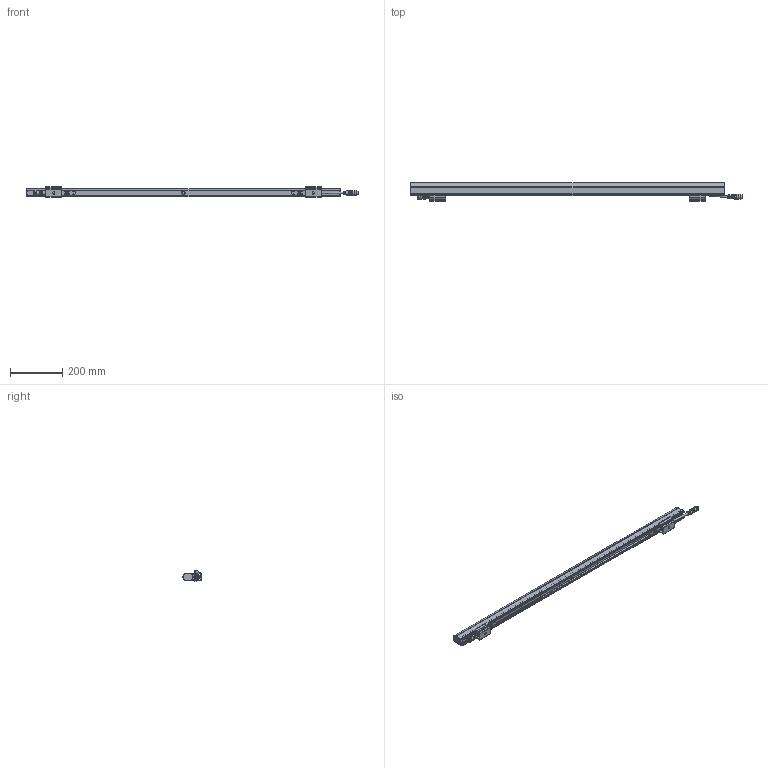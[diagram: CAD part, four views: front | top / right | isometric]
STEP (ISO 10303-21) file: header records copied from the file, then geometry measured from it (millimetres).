
FILE_DESCRIPTION (( 'STEP AP214' ), '1' );
FILE_NAME ('E series 2 Dome L1200.STEP', '2025-11-24T13:35:33', ( '' ), ( '' ), 'SwSTEP 2.0', 'SolidWorks 2025', '' );
FILE_SCHEMA (( 'AUTOMOTIVE_DESIGN' ));
Length unit declared in the file: millimetre
Products named in the file (12): E series 2 mounting clip top; E series 2 mounting clip bottom; E series 2 Dome L1200; Counter sunk screw torx_M3x16; Counter sunk screw torx_M2.5x16; Part2^E series 2; M16 5p Male; E series 2 with dome cover body and bare config_Bare 1200mm; D & E Series 2 breathing valve; M16 5p Female; E series 2 with dome cover body and bare config_1200mm; Part1^E series 2
Assembly tree (27 placements, depth 2):
  E series 2 Dome L1200
    E series 2 with dome cover body and bare config_1200mm
    E series 2 with dome cover body and bare config_Bare 1200mm
    Counter sunk screw torx_M2.5x16  x12
    E series 2 mounting clip bottom  x2
    E series 2 mounting clip top  x2
    Counter sunk screw torx_M3x16  x4
    M16 5p Female
    Part2^E series 2
    M16 5p Male
    Part1^E series 2
    D & E Series 2 breathing valve
Bounding box: 1265.7 x 68.7 x 41.7 mm (x, y, z)
Volume: 1318834.3 mm3; surface area: 288000.6 mm2
Topology: 29 solids, 32 shells, 1766 faces, 4398 edges, 2781 vertices
Faces by surface type: cylinder 734, plane 629, torus 133, bspline 130, cone 118, sphere 22
Full cylindrical faces by diameter (mm): 2.4 x2, 2.5 x12, 3 x4, 4.5 x12, 5.81 x4, 9.2 x1, 11.1 x1, 14.25 x1, 14.3 x1, 18 x1
Entity records: 61592 total; most frequent: CARTESIAN_POINT 20285, ORIENTED_EDGE 6958, DIRECTION 6535, EDGE_CURVE 3479, AXIS2_PLACEMENT_3D 2523, VERTEX_POINT 2207, EDGE_LOOP 1572, LINE 1489
